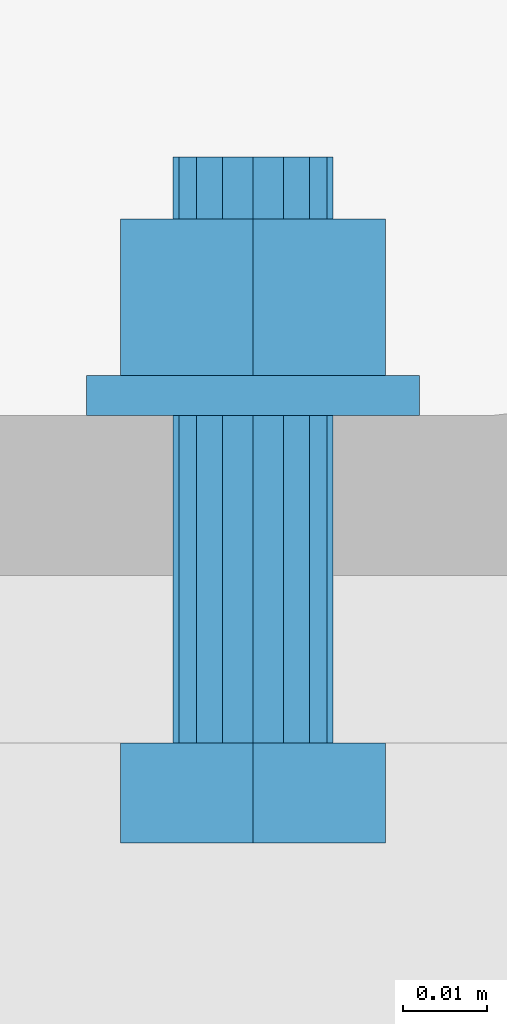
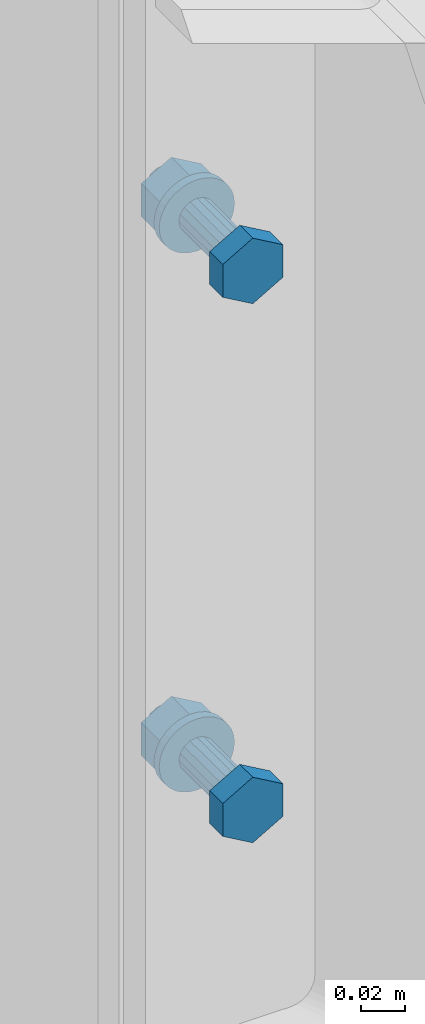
# Not in any storey, part 39 of 51: 2 mechanical fasteners.
"""IFC4 model written with IfcOpenShell, lengths in feet."""

from ifc_helpers import new_model, entity, si_unit, converted_unit, direction, origin, origin_with_axes, place, context, project, spatial, faceted_brep, element, save


model = new_model("IFC4")

# Units and contexts
model_context = context("Model", 3, precision=0.0001, world=origin(), true_north=direction((6.123233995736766e-17, 1.0)))
ifc_project = project(units=[converted_unit("LENGTHUNIT", "FOOT", entity("IfcLengthMeasure", 0.3048), si_unit("LENGTHUNIT", "METRE"), dimensions=[1, 0, 0, 0, 0, 0, 0]), converted_unit("AREAUNIT", "SQUARE INCH", entity("IfcAreaMeasure", 0.0006451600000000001), si_unit("AREAUNIT", "SQUARE_METRE"), dimensions=[2, 0, 0, 0, 0, 0, 0]), converted_unit("PLANEANGLEUNIT", "DEGREE", entity("IfcPlaneAngleMeasure", 0.017453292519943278), si_unit("PLANEANGLEUNIT", "RADIAN"), dimensions=[0, 0, 0, 0, 0, 0, 0]), si_unit("VOLUMEUNIT", "CUBIC_METRE")], contexts=[model_context])

# Site
site_placement = place(None, origin())
site = spatial("IfcSite", under=ifc_project, at=site_placement, Name="Default", CompositionType="ELEMENT")

# Mechanical fasteners
mechanical_fastener_1_placement = place(site_placement, origin_with_axes())
element("IfcMechanicalFastener", 1, at=mechanical_fastener_1_placement, inside=site, ObjectType="Bolt#7", NominalDiameter=0.0625, NominalLength=0.22916666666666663, context=model_context, shape_type="Brep", body=[
    faceted_brep([(60.37237316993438, 57.11617206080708, 17.178057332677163), (60.37237316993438, 57.07710972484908, 17.178057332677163), (60.320501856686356, 57.07710972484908, 17.148109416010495), (60.320501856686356, 57.11617206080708, 17.148109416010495), (60.26863054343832, 57.07710972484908, 17.178057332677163), (60.26863054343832, 57.11617206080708, 17.178057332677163), (60.26863054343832, 57.07710972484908, 17.2379531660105), (60.26863054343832, 57.11617206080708, 17.2379531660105), (60.320501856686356, 57.07710972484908, 17.267901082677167), (60.320501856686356, 57.11617206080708, 17.267901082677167), (60.37237316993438, 57.07710972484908, 17.2379531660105), (60.37237316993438, 57.11617206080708, 17.2379531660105)], [[[0, 1, 2, 3]], [[3, 2, 4, 5]], [[5, 4, 6, 7]], [[7, 6, 8, 9]], [[9, 8, 10, 11]], [[11, 10, 1, 0]], [[4, 2, 1, 10, 8, 6]], [[0, 3, 5, 7, 9, 11]]]),
    faceted_brep([(60.28925185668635, 57.11617206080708, 17.20800524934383), (60.28925185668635, 57.24428885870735, 17.20800524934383), (60.29163062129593, 57.24428885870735, 17.196046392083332), (60.29163062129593, 57.11617206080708, 17.196046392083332), (60.298404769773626, 57.24428885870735, 17.185908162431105), (60.298404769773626, 57.11617206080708, 17.185908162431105), (60.30854299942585, 57.24428885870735, 17.17913401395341), (60.30854299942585, 57.11617206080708, 17.17913401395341), (60.320501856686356, 57.24428885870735, 17.17675524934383), (60.320501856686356, 57.11617206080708, 17.17675524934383), (60.332460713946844, 57.24428885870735, 17.17913401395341), (60.332460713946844, 57.11617206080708, 17.17913401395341), (60.34259894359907, 57.24428885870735, 17.185908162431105), (60.34259894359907, 57.11617206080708, 17.185908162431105), (60.34937309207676, 57.24428885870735, 17.196046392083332), (60.34937309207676, 57.11617206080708, 17.196046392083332), (60.35175185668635, 57.24428885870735, 17.20800524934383), (60.35175185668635, 57.11617206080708, 17.20800524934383), (60.34937309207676, 57.24428885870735, 17.21996410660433), (60.34937309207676, 57.11617206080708, 17.21996410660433), (60.34259894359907, 57.24428885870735, 17.23010233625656), (60.34259894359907, 57.11617206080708, 17.23010233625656), (60.332460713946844, 57.24428885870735, 17.236876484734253), (60.332460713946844, 57.11617206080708, 17.236876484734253), (60.320501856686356, 57.24428885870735, 17.23925524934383), (60.320501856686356, 57.11617206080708, 17.23925524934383), (60.30854299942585, 57.24428885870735, 17.236876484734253), (60.30854299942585, 57.11617206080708, 17.236876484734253), (60.298404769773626, 57.24428885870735, 17.23010233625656), (60.298404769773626, 57.11617206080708, 17.23010233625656), (60.29163062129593, 57.24428885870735, 17.21996410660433), (60.29163062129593, 57.11617206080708, 17.21996410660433)], [[[0, 1, 2, 3]], [[3, 2, 4, 5]], [[5, 4, 6, 7]], [[7, 6, 8, 9]], [[9, 8, 10, 11]], [[11, 10, 12, 13]], [[13, 12, 14, 15]], [[15, 14, 16, 17]], [[17, 16, 18, 19]], [[19, 18, 20, 21]], [[21, 20, 22, 23]], [[23, 22, 24, 25]], [[25, 24, 26, 27]], [[27, 26, 28, 29]], [[29, 28, 30, 31]], [[31, 30, 1, 0]], [[0, 3, 5, 7, 9, 11, 13, 15, 17, 19, 21, 23, 25, 27, 29, 31]], [[1, 30, 28, 26, 24, 22, 20, 18, 16, 14, 12, 10, 8, 6, 4, 2]]]),
    faceted_brep([(60.255397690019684, 57.24428885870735, 17.20800524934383), (60.255397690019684, 57.25991385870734, 17.20800524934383), (60.256648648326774, 57.25991385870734, 17.195304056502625), (60.256648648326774, 57.24428885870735, 17.195304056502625), (60.260353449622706, 57.25991385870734, 17.183090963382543), (60.260353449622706, 57.24428885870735, 17.183090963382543), (60.26636972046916, 57.25991385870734, 17.171835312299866), (60.26636972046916, 57.24428885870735, 17.171835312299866), (60.27446625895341, 57.25991385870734, 17.161969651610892), (60.27446625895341, 57.24428885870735, 17.161969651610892), (60.28433191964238, 57.25991385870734, 17.15387311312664), (60.28433191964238, 57.24428885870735, 17.15387311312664), (60.29558757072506, 57.25991385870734, 17.147856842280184), (60.29558757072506, 57.24428885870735, 17.147856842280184), (60.307800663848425, 57.25991385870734, 17.144152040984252), (60.307800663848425, 57.24428885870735, 17.144152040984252), (60.320501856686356, 57.25991385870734, 17.142901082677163), (60.320501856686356, 57.24428885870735, 17.142901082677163), (60.333203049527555, 57.25991385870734, 17.144152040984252), (60.333203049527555, 57.24428885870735, 17.144152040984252), (60.345416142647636, 57.25991385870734, 17.147856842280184), (60.345416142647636, 57.24428885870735, 17.147856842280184), (60.3566717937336, 57.25991385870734, 17.15387311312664), (60.3566717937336, 57.24428885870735, 17.15387311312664), (60.36653745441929, 57.25991385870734, 17.161969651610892), (60.36653745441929, 57.24428885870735, 17.161969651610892), (60.37463399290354, 57.25991385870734, 17.171835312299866), (60.37463399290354, 57.24428885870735, 17.171835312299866), (60.38065026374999, 57.25991385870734, 17.183090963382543), (60.38065026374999, 57.24428885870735, 17.183090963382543), (60.38435506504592, 57.25991385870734, 17.195304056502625), (60.38435506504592, 57.24428885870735, 17.195304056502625), (60.38560602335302, 57.25991385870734, 17.20800524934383), (60.38560602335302, 57.24428885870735, 17.20800524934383), (60.38435506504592, 57.25991385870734, 17.220706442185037), (60.38435506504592, 57.24428885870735, 17.220706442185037), (60.38065026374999, 57.25991385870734, 17.23291953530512), (60.38065026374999, 57.24428885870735, 17.23291953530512), (60.37463399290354, 57.25991385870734, 17.244175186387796), (60.37463399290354, 57.24428885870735, 17.244175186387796), (60.36653745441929, 57.25991385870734, 17.254040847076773), (60.36653745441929, 57.24428885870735, 17.254040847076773), (60.3566717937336, 57.25991385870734, 17.262137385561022), (60.3566717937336, 57.24428885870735, 17.262137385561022), (60.345416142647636, 57.25991385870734, 17.268153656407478), (60.345416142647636, 57.24428885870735, 17.268153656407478), (60.333203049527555, 57.25991385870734, 17.271858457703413), (60.333203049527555, 57.24428885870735, 17.271858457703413), (60.320501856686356, 57.25991385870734, 17.2731094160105), (60.320501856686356, 57.24428885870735, 17.2731094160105), (60.307800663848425, 57.25991385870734, 17.271858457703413), (60.307800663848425, 57.24428885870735, 17.271858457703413), (60.29558757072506, 57.25991385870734, 17.268153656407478), (60.29558757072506, 57.24428885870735, 17.268153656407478), (60.28433191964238, 57.25991385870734, 17.262137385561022), (60.28433191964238, 57.24428885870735, 17.262137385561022), (60.27446625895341, 57.25991385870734, 17.254040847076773), (60.27446625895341, 57.24428885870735, 17.254040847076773), (60.26636972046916, 57.25991385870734, 17.244175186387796), (60.26636972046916, 57.24428885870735, 17.244175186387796), (60.260353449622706, 57.25991385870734, 17.23291953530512), (60.260353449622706, 57.24428885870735, 17.23291953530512), (60.256648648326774, 57.25991385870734, 17.220706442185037), (60.256648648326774, 57.24428885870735, 17.220706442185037)], [[[0, 1, 2, 3]], [[3, 2, 4, 5]], [[5, 4, 6, 7]], [[7, 6, 8, 9]], [[9, 8, 10, 11]], [[11, 10, 12, 13]], [[13, 12, 14, 15]], [[15, 14, 16, 17]], [[17, 16, 18, 19]], [[19, 18, 20, 21]], [[21, 20, 22, 23]], [[23, 22, 24, 25]], [[25, 24, 26, 27]], [[27, 26, 28, 29]], [[29, 28, 30, 31]], [[31, 30, 32, 33]], [[33, 32, 34, 35]], [[35, 34, 36, 37]], [[37, 36, 38, 39]], [[39, 38, 40, 41]], [[41, 40, 42, 43]], [[43, 42, 44, 45]], [[45, 44, 46, 47]], [[47, 46, 48, 49]], [[49, 48, 50, 51]], [[51, 50, 52, 53]], [[53, 52, 54, 55]], [[55, 54, 56, 57]], [[57, 56, 58, 59]], [[59, 58, 60, 61]], [[61, 60, 62, 63]], [[63, 62, 1, 0]], [[0, 3, 5, 7, 9, 11, 13, 15, 17, 19, 21, 23, 25, 27, 29, 31, 33, 35, 37, 39, 41, 43, 45, 47, 49, 51, 53, 55, 57, 59, 61, 63]], [[1, 62, 60, 58, 56, 54, 52, 50, 48, 46, 44, 42, 40, 38, 36, 34, 32, 30, 28, 26, 24, 22, 20, 18, 16, 14, 12, 10, 8, 6, 4, 2]]]),
    faceted_brep([(60.37237316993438, 57.321111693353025, 17.178057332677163), (60.37237316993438, 57.25991385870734, 17.178057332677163), (60.320501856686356, 57.25991385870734, 17.148109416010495), (60.320501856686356, 57.321111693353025, 17.148109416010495), (60.26863054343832, 57.25991385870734, 17.178057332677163), (60.26863054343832, 57.321111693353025, 17.178057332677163), (60.26863054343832, 57.25991385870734, 17.2379531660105), (60.26863054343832, 57.321111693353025, 17.2379531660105), (60.320501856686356, 57.25991385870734, 17.267901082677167), (60.320501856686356, 57.321111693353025, 17.267901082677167), (60.37237316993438, 57.25991385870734, 17.2379531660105), (60.37237316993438, 57.321111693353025, 17.2379531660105)], [[[0, 1, 2, 3]], [[3, 2, 4, 5]], [[5, 4, 6, 7]], [[7, 6, 8, 9]], [[9, 8, 10, 11]], [[11, 10, 1, 0]], [[4, 2, 1, 10, 8, 6]], [[0, 3, 5, 7, 9, 11]]]),
    faceted_brep([(60.28925185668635, 57.321111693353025, 17.20800524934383), (60.28925185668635, 57.34533872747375, 17.20800524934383), (60.29163062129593, 57.34533872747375, 17.196046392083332), (60.29163062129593, 57.321111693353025, 17.196046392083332), (60.298404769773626, 57.34533872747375, 17.185908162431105), (60.298404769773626, 57.321111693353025, 17.185908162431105), (60.30854299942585, 57.34533872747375, 17.17913401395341), (60.30854299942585, 57.321111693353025, 17.17913401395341), (60.320501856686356, 57.34533872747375, 17.17675524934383), (60.320501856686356, 57.321111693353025, 17.17675524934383), (60.332460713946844, 57.34533872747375, 17.17913401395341), (60.332460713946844, 57.321111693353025, 17.17913401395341), (60.34259894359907, 57.34533872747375, 17.185908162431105), (60.34259894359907, 57.321111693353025, 17.185908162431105), (60.34937309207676, 57.34533872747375, 17.196046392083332), (60.34937309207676, 57.321111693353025, 17.196046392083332), (60.35175185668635, 57.34533872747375, 17.20800524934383), (60.35175185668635, 57.321111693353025, 17.20800524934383), (60.34937309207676, 57.34533872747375, 17.21996410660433), (60.34937309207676, 57.321111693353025, 17.21996410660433), (60.34259894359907, 57.34533872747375, 17.23010233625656), (60.34259894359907, 57.321111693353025, 17.23010233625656), (60.332460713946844, 57.34533872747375, 17.236876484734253), (60.332460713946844, 57.321111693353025, 17.236876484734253), (60.320501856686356, 57.34533872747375, 17.23925524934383), (60.320501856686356, 57.321111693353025, 17.23925524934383), (60.30854299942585, 57.34533872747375, 17.236876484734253), (60.30854299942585, 57.321111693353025, 17.236876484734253), (60.298404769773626, 57.34533872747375, 17.23010233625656), (60.298404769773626, 57.321111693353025, 17.23010233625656), (60.29163062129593, 57.34533872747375, 17.21996410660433), (60.29163062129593, 57.321111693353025, 17.21996410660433)], [[[0, 1, 2, 3]], [[3, 2, 4, 5]], [[5, 4, 6, 7]], [[7, 6, 8, 9]], [[9, 8, 10, 11]], [[11, 10, 12, 13]], [[13, 12, 14, 15]], [[15, 14, 16, 17]], [[17, 16, 18, 19]], [[19, 18, 20, 21]], [[21, 20, 22, 23]], [[23, 22, 24, 25]], [[25, 24, 26, 27]], [[27, 26, 28, 29]], [[29, 28, 30, 31]], [[31, 30, 1, 0]], [[0, 3, 5, 7, 9, 11, 13, 15, 17, 19, 21, 23, 25, 27, 29, 31]], [[1, 30, 28, 26, 24, 22, 20, 18, 16, 14, 12, 10, 8, 6, 4, 2]]]),
])
mechanical_fastener_2_placement = place(site_placement, origin_with_axes())
element("IfcMechanicalFastener", 2, at=mechanical_fastener_2_placement, inside=site, ObjectType="Bolt#8", NominalDiameter=0.0625, NominalLength=0.22916666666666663, context=model_context, shape_type="Brep", body=[
    faceted_brep([(60.37237316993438, 57.11617206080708, 16.193805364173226), (60.37237316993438, 57.07710972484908, 16.193805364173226), (60.320501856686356, 57.07710972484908, 16.163857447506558), (60.320501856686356, 57.11617206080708, 16.163857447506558), (60.26863054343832, 57.07710972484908, 16.193805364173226), (60.26863054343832, 57.11617206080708, 16.193805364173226), (60.26863054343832, 57.07710972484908, 16.25370119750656), (60.26863054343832, 57.11617206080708, 16.25370119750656), (60.320501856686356, 57.07710972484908, 16.28364911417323), (60.320501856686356, 57.11617206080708, 16.28364911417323), (60.37237316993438, 57.07710972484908, 16.25370119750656), (60.37237316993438, 57.11617206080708, 16.25370119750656)], [[[0, 1, 2, 3]], [[3, 2, 4, 5]], [[5, 4, 6, 7]], [[7, 6, 8, 9]], [[9, 8, 10, 11]], [[11, 10, 1, 0]], [[4, 2, 1, 10, 8, 6]], [[0, 3, 5, 7, 9, 11]]]),
    faceted_brep([(60.28925185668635, 57.11617206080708, 16.223753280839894), (60.28925185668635, 57.24428885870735, 16.223753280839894), (60.29163062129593, 57.24428885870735, 16.211794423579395), (60.29163062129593, 57.11617206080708, 16.211794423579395), (60.298404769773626, 57.24428885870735, 16.201656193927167), (60.298404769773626, 57.11617206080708, 16.201656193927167), (60.30854299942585, 57.24428885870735, 16.19488204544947), (60.30854299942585, 57.11617206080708, 16.19488204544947), (60.320501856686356, 57.24428885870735, 16.192503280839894), (60.320501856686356, 57.11617206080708, 16.192503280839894), (60.332460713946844, 57.24428885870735, 16.19488204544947), (60.332460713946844, 57.11617206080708, 16.19488204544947), (60.34259894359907, 57.24428885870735, 16.201656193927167), (60.34259894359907, 57.11617206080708, 16.201656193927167), (60.34937309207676, 57.24428885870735, 16.211794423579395), (60.34937309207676, 57.11617206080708, 16.211794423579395), (60.35175185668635, 57.24428885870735, 16.223753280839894), (60.35175185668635, 57.11617206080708, 16.223753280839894), (60.34937309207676, 57.24428885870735, 16.235712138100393), (60.34937309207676, 57.11617206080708, 16.235712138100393), (60.34259894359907, 57.24428885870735, 16.245850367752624), (60.34259894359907, 57.11617206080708, 16.245850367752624), (60.332460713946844, 57.24428885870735, 16.252624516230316), (60.332460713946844, 57.11617206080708, 16.252624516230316), (60.320501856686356, 57.24428885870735, 16.255003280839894), (60.320501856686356, 57.11617206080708, 16.255003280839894), (60.30854299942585, 57.24428885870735, 16.252624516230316), (60.30854299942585, 57.11617206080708, 16.252624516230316), (60.298404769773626, 57.24428885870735, 16.245850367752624), (60.298404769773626, 57.11617206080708, 16.245850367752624), (60.29163062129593, 57.24428885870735, 16.235712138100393), (60.29163062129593, 57.11617206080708, 16.235712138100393)], [[[0, 1, 2, 3]], [[3, 2, 4, 5]], [[5, 4, 6, 7]], [[7, 6, 8, 9]], [[9, 8, 10, 11]], [[11, 10, 12, 13]], [[13, 12, 14, 15]], [[15, 14, 16, 17]], [[17, 16, 18, 19]], [[19, 18, 20, 21]], [[21, 20, 22, 23]], [[23, 22, 24, 25]], [[25, 24, 26, 27]], [[27, 26, 28, 29]], [[29, 28, 30, 31]], [[31, 30, 1, 0]], [[0, 3, 5, 7, 9, 11, 13, 15, 17, 19, 21, 23, 25, 27, 29, 31]], [[1, 30, 28, 26, 24, 22, 20, 18, 16, 14, 12, 10, 8, 6, 4, 2]]]),
    faceted_brep([(60.255397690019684, 57.24428885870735, 16.223753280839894), (60.255397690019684, 57.25991385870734, 16.223753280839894), (60.256648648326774, 57.25991385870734, 16.211052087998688), (60.256648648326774, 57.24428885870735, 16.211052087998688), (60.260353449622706, 57.25991385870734, 16.198838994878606), (60.260353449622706, 57.24428885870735, 16.198838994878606), (60.26636972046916, 57.25991385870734, 16.18758334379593), (60.26636972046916, 57.24428885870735, 16.18758334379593), (60.27446625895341, 57.25991385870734, 16.177717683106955), (60.27446625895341, 57.24428885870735, 16.177717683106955), (60.28433191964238, 57.25991385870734, 16.169621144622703), (60.28433191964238, 57.24428885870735, 16.169621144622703), (60.29558757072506, 57.25991385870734, 16.163604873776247), (60.29558757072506, 57.24428885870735, 16.163604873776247), (60.307800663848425, 57.25991385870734, 16.159900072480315), (60.307800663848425, 57.24428885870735, 16.159900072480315), (60.320501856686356, 57.25991385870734, 16.158649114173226), (60.320501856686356, 57.24428885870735, 16.158649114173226), (60.333203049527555, 57.25991385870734, 16.159900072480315), (60.333203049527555, 57.24428885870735, 16.159900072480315), (60.345416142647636, 57.25991385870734, 16.163604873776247), (60.345416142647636, 57.24428885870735, 16.163604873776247), (60.3566717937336, 57.25991385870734, 16.169621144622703), (60.3566717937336, 57.24428885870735, 16.169621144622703), (60.36653745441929, 57.25991385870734, 16.177717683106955), (60.36653745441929, 57.24428885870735, 16.177717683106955), (60.37463399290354, 57.25991385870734, 16.18758334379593), (60.37463399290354, 57.24428885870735, 16.18758334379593), (60.38065026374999, 57.25991385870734, 16.198838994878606), (60.38065026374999, 57.24428885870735, 16.198838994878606), (60.38435506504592, 57.25991385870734, 16.211052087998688), (60.38435506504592, 57.24428885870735, 16.211052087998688), (60.38560602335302, 57.25991385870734, 16.223753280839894), (60.38560602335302, 57.24428885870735, 16.223753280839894), (60.38435506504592, 57.25991385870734, 16.2364544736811), (60.38435506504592, 57.24428885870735, 16.2364544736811), (60.38065026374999, 57.25991385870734, 16.24866756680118), (60.38065026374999, 57.24428885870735, 16.24866756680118), (60.37463399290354, 57.25991385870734, 16.25992321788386), (60.37463399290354, 57.24428885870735, 16.25992321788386), (60.36653745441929, 57.25991385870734, 16.269788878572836), (60.36653745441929, 57.24428885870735, 16.269788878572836), (60.3566717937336, 57.25991385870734, 16.277885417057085), (60.3566717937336, 57.24428885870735, 16.277885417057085), (60.345416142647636, 57.25991385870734, 16.28390168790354), (60.345416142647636, 57.24428885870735, 16.28390168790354), (60.333203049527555, 57.25991385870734, 16.287606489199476), (60.333203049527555, 57.24428885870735, 16.287606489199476), (60.320501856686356, 57.25991385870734, 16.28885744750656), (60.320501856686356, 57.24428885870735, 16.28885744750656), (60.307800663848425, 57.25991385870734, 16.287606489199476), (60.307800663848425, 57.24428885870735, 16.287606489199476), (60.29558757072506, 57.25991385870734, 16.28390168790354), (60.29558757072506, 57.24428885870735, 16.28390168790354), (60.28433191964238, 57.25991385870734, 16.277885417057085), (60.28433191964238, 57.24428885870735, 16.277885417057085), (60.27446625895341, 57.25991385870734, 16.269788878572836), (60.27446625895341, 57.24428885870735, 16.269788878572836), (60.26636972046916, 57.25991385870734, 16.25992321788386), (60.26636972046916, 57.24428885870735, 16.25992321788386), (60.260353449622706, 57.25991385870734, 16.24866756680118), (60.260353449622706, 57.24428885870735, 16.24866756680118), (60.256648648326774, 57.25991385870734, 16.2364544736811), (60.256648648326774, 57.24428885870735, 16.2364544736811)], [[[0, 1, 2, 3]], [[3, 2, 4, 5]], [[5, 4, 6, 7]], [[7, 6, 8, 9]], [[9, 8, 10, 11]], [[11, 10, 12, 13]], [[13, 12, 14, 15]], [[15, 14, 16, 17]], [[17, 16, 18, 19]], [[19, 18, 20, 21]], [[21, 20, 22, 23]], [[23, 22, 24, 25]], [[25, 24, 26, 27]], [[27, 26, 28, 29]], [[29, 28, 30, 31]], [[31, 30, 32, 33]], [[33, 32, 34, 35]], [[35, 34, 36, 37]], [[37, 36, 38, 39]], [[39, 38, 40, 41]], [[41, 40, 42, 43]], [[43, 42, 44, 45]], [[45, 44, 46, 47]], [[47, 46, 48, 49]], [[49, 48, 50, 51]], [[51, 50, 52, 53]], [[53, 52, 54, 55]], [[55, 54, 56, 57]], [[57, 56, 58, 59]], [[59, 58, 60, 61]], [[61, 60, 62, 63]], [[63, 62, 1, 0]], [[0, 3, 5, 7, 9, 11, 13, 15, 17, 19, 21, 23, 25, 27, 29, 31, 33, 35, 37, 39, 41, 43, 45, 47, 49, 51, 53, 55, 57, 59, 61, 63]], [[1, 62, 60, 58, 56, 54, 52, 50, 48, 46, 44, 42, 40, 38, 36, 34, 32, 30, 28, 26, 24, 22, 20, 18, 16, 14, 12, 10, 8, 6, 4, 2]]]),
    faceted_brep([(60.37237316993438, 57.321111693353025, 16.193805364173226), (60.37237316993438, 57.25991385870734, 16.193805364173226), (60.320501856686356, 57.25991385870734, 16.163857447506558), (60.320501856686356, 57.321111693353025, 16.163857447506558), (60.26863054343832, 57.25991385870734, 16.193805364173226), (60.26863054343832, 57.321111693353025, 16.193805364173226), (60.26863054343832, 57.25991385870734, 16.25370119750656), (60.26863054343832, 57.321111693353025, 16.25370119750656), (60.320501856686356, 57.25991385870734, 16.28364911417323), (60.320501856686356, 57.321111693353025, 16.28364911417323), (60.37237316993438, 57.25991385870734, 16.25370119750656), (60.37237316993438, 57.321111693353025, 16.25370119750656)], [[[0, 1, 2, 3]], [[3, 2, 4, 5]], [[5, 4, 6, 7]], [[7, 6, 8, 9]], [[9, 8, 10, 11]], [[11, 10, 1, 0]], [[4, 2, 1, 10, 8, 6]], [[0, 3, 5, 7, 9, 11]]]),
    faceted_brep([(60.28925185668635, 57.321111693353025, 16.223753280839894), (60.28925185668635, 57.34533872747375, 16.223753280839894), (60.29163062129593, 57.34533872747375, 16.211794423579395), (60.29163062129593, 57.321111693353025, 16.211794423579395), (60.298404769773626, 57.34533872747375, 16.201656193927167), (60.298404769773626, 57.321111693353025, 16.201656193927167), (60.30854299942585, 57.34533872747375, 16.19488204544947), (60.30854299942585, 57.321111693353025, 16.19488204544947), (60.320501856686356, 57.34533872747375, 16.192503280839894), (60.320501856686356, 57.321111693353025, 16.192503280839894), (60.332460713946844, 57.34533872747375, 16.19488204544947), (60.332460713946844, 57.321111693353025, 16.19488204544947), (60.34259894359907, 57.34533872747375, 16.201656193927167), (60.34259894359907, 57.321111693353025, 16.201656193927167), (60.34937309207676, 57.34533872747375, 16.211794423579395), (60.34937309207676, 57.321111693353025, 16.211794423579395), (60.35175185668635, 57.34533872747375, 16.223753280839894), (60.35175185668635, 57.321111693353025, 16.223753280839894), (60.34937309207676, 57.34533872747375, 16.235712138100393), (60.34937309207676, 57.321111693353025, 16.235712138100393), (60.34259894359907, 57.34533872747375, 16.245850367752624), (60.34259894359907, 57.321111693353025, 16.245850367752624), (60.332460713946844, 57.34533872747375, 16.252624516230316), (60.332460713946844, 57.321111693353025, 16.252624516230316), (60.320501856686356, 57.34533872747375, 16.255003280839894), (60.320501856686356, 57.321111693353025, 16.255003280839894), (60.30854299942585, 57.34533872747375, 16.252624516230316), (60.30854299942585, 57.321111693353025, 16.252624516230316), (60.298404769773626, 57.34533872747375, 16.245850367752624), (60.298404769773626, 57.321111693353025, 16.245850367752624), (60.29163062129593, 57.34533872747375, 16.235712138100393), (60.29163062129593, 57.321111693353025, 16.235712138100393)], [[[0, 1, 2, 3]], [[3, 2, 4, 5]], [[5, 4, 6, 7]], [[7, 6, 8, 9]], [[9, 8, 10, 11]], [[11, 10, 12, 13]], [[13, 12, 14, 15]], [[15, 14, 16, 17]], [[17, 16, 18, 19]], [[19, 18, 20, 21]], [[21, 20, 22, 23]], [[23, 22, 24, 25]], [[25, 24, 26, 27]], [[27, 26, 28, 29]], [[29, 28, 30, 31]], [[31, 30, 1, 0]], [[0, 3, 5, 7, 9, 11, 13, 15, 17, 19, 21, 23, 25, 27, 29, 31]], [[1, 30, 28, 26, 24, 22, 20, 18, 16, 14, 12, 10, 8, 6, 4, 2]]]),
])

save(model, "model.ifc")
